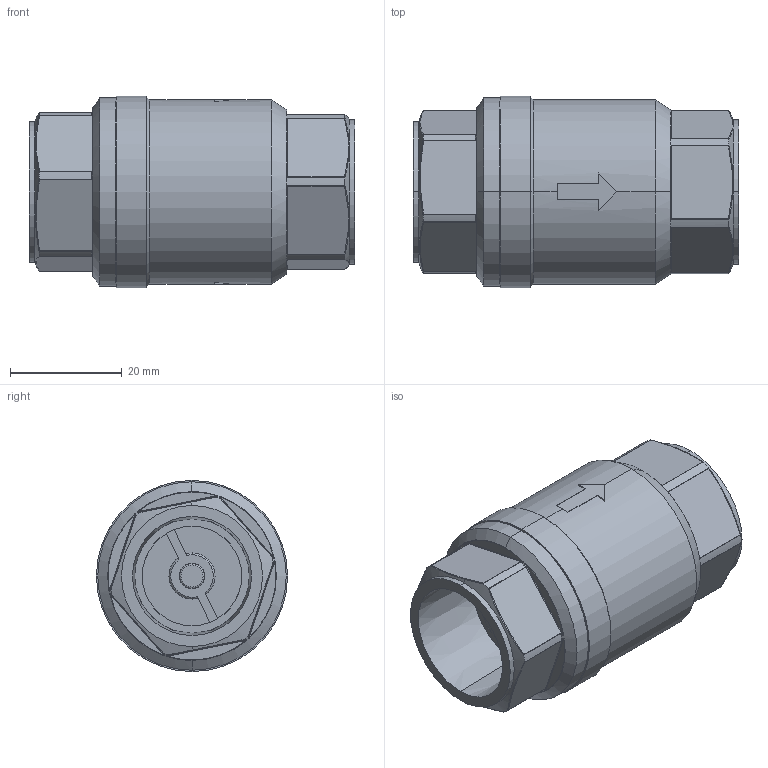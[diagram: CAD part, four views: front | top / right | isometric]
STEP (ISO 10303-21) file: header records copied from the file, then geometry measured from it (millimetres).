
FILE_DESCRIPTION (( 'STEP AP203' ), '1' );
FILE_NAME ('SCI-6.STEP', '2022-09-09T20:15:46', ( '' ), ( '' ), 'SwSTEP 2.0', 'SolidWorks 2021', '' );
FILE_SCHEMA (( 'CONFIG_CONTROL_DESIGN' ));
Length unit declared in the file: inch
Products named in the file (5): SCI-6-BODY; SCI-6-SPRING; SCI-6-SEAT; SCI-6-POPPET; SCI-6
Assembly tree (4 placements, depth 2):
  SCI-6
    SCI-6-POPPET
    SCI-6-SEAT
    SCI-6-SPRING
    SCI-6-BODY
Bounding box: 58.42 x 34.29 x 34.29 mm (x, y, z)
Volume: 16242.2 mm3; surface area: 14630.8 mm2
Topology: 4 solids, 4 shells, 282 faces, 719 edges, 456 vertices
Faces by surface type: cylinder 104, plane 76, bspline 62, torus 24, cone 16
Entity records: 14212 total; most frequent: CARTESIAN_POINT 7327, ORIENTED_EDGE 1436, DIRECTION 1212, EDGE_CURVE 718, AXIS2_PLACEMENT_3D 496, VERTEX_POINT 454, EDGE_LOOP 304, ADVANCED_FACE 282
